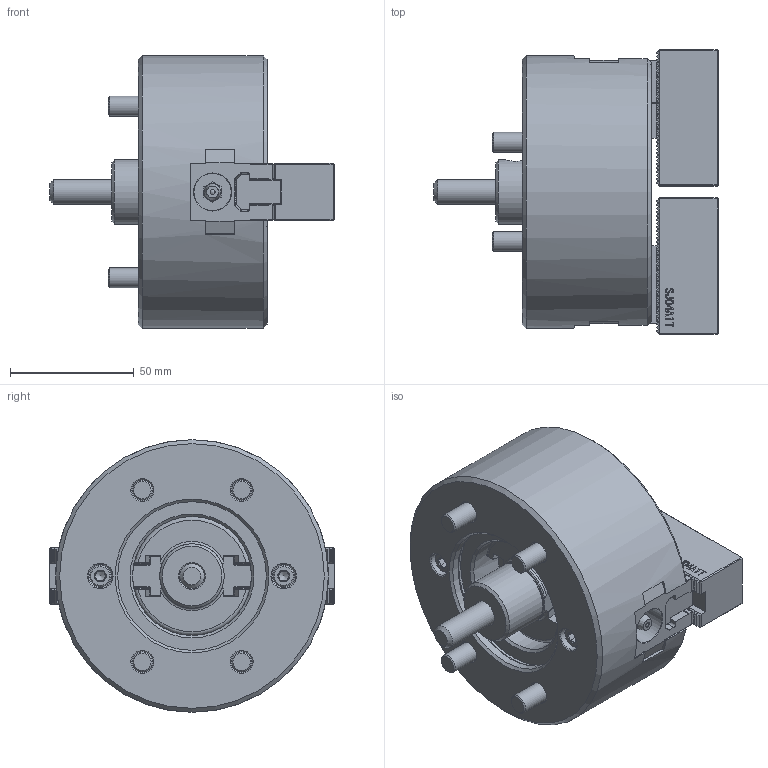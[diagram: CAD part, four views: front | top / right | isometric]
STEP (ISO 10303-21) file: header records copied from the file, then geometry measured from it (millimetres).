
FILE_DESCRIPTION (( 'STEP AP214' ), '1' );
FILE_NAME ('DT1_NT04_OUTSIDE_VIEW_HCL.STEP', '2024-05-14T00:40:44', ( '' ), ( '' ), 'SwSTEP 2.0', 'SolidWorks 2022', '' );
FILE_SCHEMA (( 'AUTOMOTIVE_DESIGN' ));
Length unit declared in the file: millimetre
Products named in the file (10): DT1_NT04_DN^DT1_NT04_ﾃﾞﾌｫﾙﾄ; DT1_NT04_COVER^DT1_NT04_ﾃﾞﾌｫﾙﾄ; DT1_NT04_M8x55^DT1_NT04_ﾃﾞﾌｫﾙﾄ; DT1_NT04_SOFTJAW^DT1_NT04_ﾃﾞﾌｫﾙﾄ; DT1_NT04_M3x8^DT1_NT04_ﾃﾞﾌｫﾙﾄ; DT1_NT04_BASE^DT1_NT04_ﾃﾞﾌｫﾙﾄ; DT1_NT04_DRAWSCREW^DT1_NT04_ﾃﾞﾌｫﾙﾄ; DT1_NT04_M8x22^DT1_NT04_ﾃﾞﾌｫﾙﾄ; DT1_NT04_TNUT^DT1_NT04_ﾃﾞﾌｫﾙﾄ; DT1_NT04_OUTSIDE_VIEW_HCL
Assembly tree (20 placements, depth 2):
  DT1_NT04_OUTSIDE_VIEW_HCL
    DT1_NT04_SOFTJAW^DT1_NT04_ﾃﾞﾌｫﾙﾄ  x2
    DT1_NT04_TNUT^DT1_NT04_ﾃﾞﾌｫﾙﾄ  x2
    DT1_NT04_COVER^DT1_NT04_ﾃﾞﾌｫﾙﾄ
    DT1_NT04_DRAWSCREW^DT1_NT04_ﾃﾞﾌｫﾙﾄ
    DT1_NT04_DN^DT1_NT04_ﾃﾞﾌｫﾙﾄ
    DT1_NT04_BASE^DT1_NT04_ﾃﾞﾌｫﾙﾄ
    DT1_NT04_M8x22^DT1_NT04_ﾃﾞﾌｫﾙﾄ  x4
    DT1_NT04_M8x55^DT1_NT04_ﾃﾞﾌｫﾙﾄ  x4
    DT1_NT04_M3x8^DT1_NT04_ﾃﾞﾌｫﾙﾄ  x4
Bounding box: 114.6 x 114.87 x 110 mm (x, y, z)
Volume: 518911.8 mm3; surface area: 106532 mm2
Topology: 20 solids, 22 shells, 2547 faces, 7138 edges, 4689 vertices
Faces by surface type: plane 1798, cylinder 418, bspline 170, cone 134, torus 25, sphere 2
Full cylindrical faces by diameter (mm): 2 x2, 2.5 x4, 2.693 x4, 3 x4, 3.2 x4, 5 x2, 6 x4, 6.3 x4, 6.8 x4, 7 x1, 8 x8, 8.5 x9, 8.72 x2, 9.5 x2, 10 x2, 11 x1, 13.27 x8, 13.5 x4, 14 x5, 14.5 x1, 14.6 x1, 15 x2, 26 x1, 48 x1, 60 x1, 61 x1, 110 x1
Entity records: 66872 total; most frequent: CARTESIAN_POINT 19215, ORIENTED_EDGE 10474, DIRECTION 8528, EDGE_CURVE 5237, LINE 4008, VECTOR 4008, VERTEX_POINT 3514, AXIS2_PLACEMENT_3D 2260
